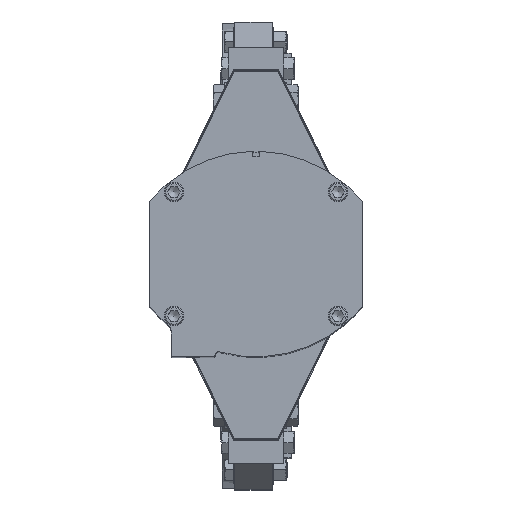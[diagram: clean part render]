
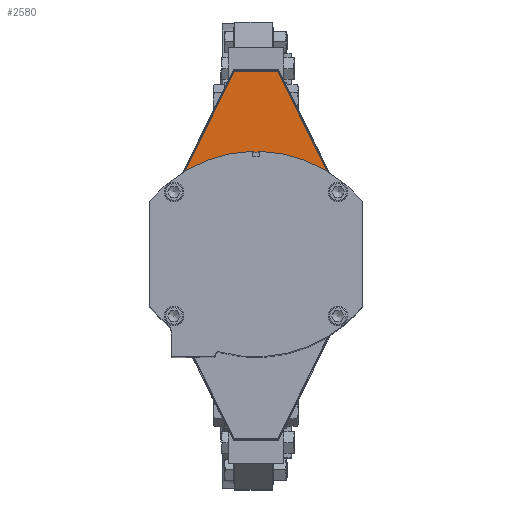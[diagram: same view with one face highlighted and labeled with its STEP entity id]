
A CAD part, top view. The second image highlights one B-rep face of the part: STEP entity #2580.
In plain terms, the highlighted planar face has unit normal (0, 0, 1).
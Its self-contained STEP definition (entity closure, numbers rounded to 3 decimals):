
#2580=ADVANCED_FACE('',(#7952),#7953,.F.);
#7952=FACE_OUTER_BOUND('',#13822,.T.);
#7953=PLANE('',#13823);
#13822=EDGE_LOOP('',(#32806,#32807,#32808,#32809,#32810,#32811));
#13823=AXIS2_PLACEMENT_3D('',#32812,#32813,#32814);
#32806=ORIENTED_EDGE('',*,*,#40896,.T.);
#32807=ORIENTED_EDGE('',*,*,#40902,.T.);
#32808=ORIENTED_EDGE('',*,*,#40920,.T.);
#32809=ORIENTED_EDGE('',*,*,#40918,.T.);
#32810=ORIENTED_EDGE('',*,*,#40907,.T.);
#32811=ORIENTED_EDGE('',*,*,#40916,.F.);
#32812=CARTESIAN_POINT('',(51.994,147.403,769.75));
#32813=DIRECTION('',(0.,0.,-1.));
#32814=DIRECTION('',(0.,1.,0.));
#40896=EDGE_CURVE('',#51317,#51318,#51319,.T.);
#40902=EDGE_CURVE('',#51318,#51327,#51329,.T.);
#40907=EDGE_CURVE('',#51337,#51338,#51339,.T.);
#40916=EDGE_CURVE('',#51317,#51338,#51350,.T.);
#40918=EDGE_CURVE('',#51352,#51337,#51353,.T.);
#40920=EDGE_CURVE('',#51327,#51352,#51355,.T.);
#51317=VERTEX_POINT('',#72645);
#51318=VERTEX_POINT('',#72646);
#51319=LINE('',#72647,#72648);
#51327=VERTEX_POINT('',#72660);
#51329=LINE('',#72663,#72664);
#51337=VERTEX_POINT('',#72676);
#51338=VERTEX_POINT('',#72677);
#51339=LINE('',#72678,#72679);
#51350=LINE('',#72694,#72695);
#51352=VERTEX_POINT('',#72698);
#51353=LINE('',#72699,#72700);
#51355=LINE('',#72703,#72704);
#72645=CARTESIAN_POINT('',(-23.989,204.378,769.75));
#72646=CARTESIAN_POINT('',(-80.,91.378,769.75));
#72647=CARTESIAN_POINT('',(-41.834,168.377,769.75));
#72648=VECTOR('',#83411,10.);
#72660=CARTESIAN_POINT('',(-80.,90.428,769.75));
#72663=CARTESIAN_POINT('',(-80.,204.378,769.75));
#72664=VECTOR('',#83417,10.);
#72676=CARTESIAN_POINT('',(80.,91.378,769.75));
#72677=CARTESIAN_POINT('',(23.989,204.378,769.75));
#72678=CARTESIAN_POINT('',(52.089,147.688,769.75));
#72679=VECTOR('',#83422,10.);
#72694=CARTESIAN_POINT('',(-23.989,204.378,769.75));
#72695=VECTOR('',#83439,10.);
#72698=CARTESIAN_POINT('',(80.,90.428,769.75));
#72699=CARTESIAN_POINT('',(80.,204.378,769.75));
#72700=VECTOR('',#83441,10.);
#72703=CARTESIAN_POINT('',(80.,90.428,769.75));
#72704=VECTOR('',#83443,10.);
#83411=DIRECTION('',(-0.444,-0.896,0.));
#83417=DIRECTION('',(0.,-1.,0.));
#83422=DIRECTION('',(-0.444,0.896,0.));
#83439=DIRECTION('',(1.,0.,0.));
#83441=DIRECTION('',(0.,1.,0.));
#83443=DIRECTION('',(1.,0.,0.));
